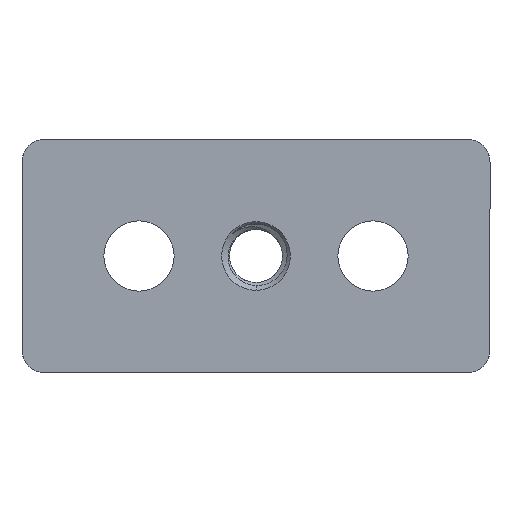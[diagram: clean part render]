
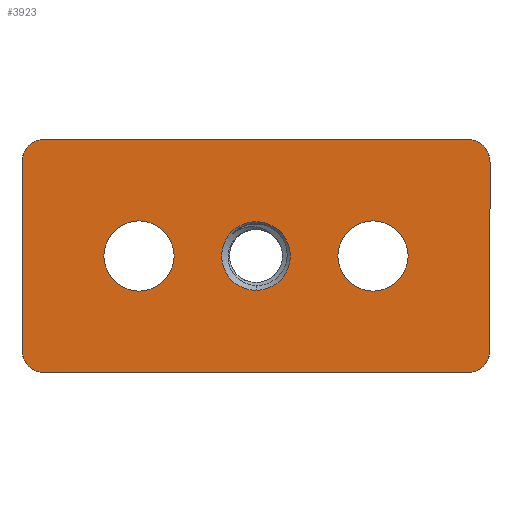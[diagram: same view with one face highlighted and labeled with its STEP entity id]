
A CAD part, front view. The second image highlights one B-rep face of the part: STEP entity #3923.
In plain terms, the highlighted planar face has unit normal (0, -1, 0).
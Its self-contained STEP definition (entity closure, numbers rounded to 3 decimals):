
#84 = VERTEX_POINT ( 'NONE', #3325 ) ;
#217 = AXIS2_PLACEMENT_3D ( 'NONE', #4172, #4520, #4469 ) ;
#224 = DIRECTION ( 'NONE',  ( 0., 0., -1. ) ) ;
#236 = VERTEX_POINT ( 'NONE', #2530 ) ;
#293 = CARTESIAN_POINT ( 'NONE',  ( -27., 0., -15. ) ) ;
#295 = CARTESIAN_POINT ( 'NONE',  ( 30., 0., -12. ) ) ;
#359 = VERTEX_POINT ( 'NONE', #295 ) ;
#381 = VECTOR ( 'NONE', #3386, 1000. ) ;
#434 = CARTESIAN_POINT ( 'NONE',  ( 0., 0., 0. ) ) ;
#437 = ORIENTED_EDGE ( 'NONE', *, *, #1896, .F. ) ;
#494 = CARTESIAN_POINT ( 'NONE',  ( -27., 0., 12. ) ) ;
#618 = CARTESIAN_POINT ( 'NONE',  ( 0., 0., 0. ) ) ;
#691 = AXIS2_PLACEMENT_3D ( 'NONE', #1824, #2942, #2843 ) ;
#700 = VERTEX_POINT ( 'NONE', #2008 ) ;
#810 = CARTESIAN_POINT ( 'NONE',  ( -27., 0., 15. ) ) ;
#815 = AXIS2_PLACEMENT_3D ( 'NONE', #2672, #2940, #4444 ) ;
#886 = CARTESIAN_POINT ( 'NONE',  ( -15., 0., -4.5 ) ) ;
#957 = CARTESIAN_POINT ( 'NONE',  ( 15., 0., 0. ) ) ;
#959 = EDGE_CURVE ( 'NONE', #3672, #4757, #3704, .T. ) ;
#960 = CARTESIAN_POINT ( 'NONE',  ( -30., 0., -12. ) ) ;
#1003 = CIRCLE ( 'NONE', #3496, 4.4 ) ;
#1064 = VERTEX_POINT ( 'NONE', #4552 ) ;
#1116 = EDGE_CURVE ( 'NONE', #4428, #700, #1003, .T. ) ;
#1175 = ORIENTED_EDGE ( 'NONE', *, *, #1931, .T. ) ;
#1206 = DIRECTION ( 'NONE',  ( 0., 1., 0. ) ) ;
#1298 = CARTESIAN_POINT ( 'NONE',  ( 27., 0., -15. ) ) ;
#1330 = CIRCLE ( 'NONE', #4148, 4.5 ) ;
#1403 = DIRECTION ( 'NONE',  ( 0., 1., 0. ) ) ;
#1432 = ORIENTED_EDGE ( 'NONE', *, *, #4173, .T. ) ;
#1457 = CARTESIAN_POINT ( 'NONE',  ( -30., 0., -12. ) ) ;
#1526 = PLANE ( 'NONE',  #815 ) ;
#1582 = DIRECTION ( 'NONE',  ( 0., 1., 0. ) ) ;
#1598 = CARTESIAN_POINT ( 'NONE',  ( 15., 0., 0. ) ) ;
#1687 = EDGE_CURVE ( 'NONE', #359, #2892, #2873, .T. ) ;
#1727 = ORIENTED_EDGE ( 'NONE', *, *, #1687, .F. ) ;
#1734 = ORIENTED_EDGE ( 'NONE', *, *, #4803, .T. ) ;
#1747 = EDGE_CURVE ( 'NONE', #1928, #84, #3034, .T. ) ;
#1824 = CARTESIAN_POINT ( 'NONE',  ( 27., 0., -12. ) ) ;
#1847 = DIRECTION ( 'NONE',  ( 0., 0., 1. ) ) ;
#1896 = EDGE_CURVE ( 'NONE', #2279, #3672, #2959, .T. ) ;
#1900 = CIRCLE ( 'NONE', #4478, 4.5 ) ;
#1928 = VERTEX_POINT ( 'NONE', #2626 ) ;
#1931 = EDGE_CURVE ( 'NONE', #1064, #4159, #3187, .T. ) ;
#2008 = CARTESIAN_POINT ( 'NONE',  ( 0., 0., -4.4 ) ) ;
#2092 = LINE ( 'NONE', #3576, #3070 ) ;
#2101 = CIRCLE ( 'NONE', #3968, 4.5 ) ;
#2106 = EDGE_CURVE ( 'NONE', #4794, #236, #2101, .T. ) ;
#2211 = DIRECTION ( 'NONE',  ( -1., 0., 0. ) ) ;
#2279 = VERTEX_POINT ( 'NONE', #4017 ) ;
#2298 = CARTESIAN_POINT ( 'NONE',  ( 15., 0., 4.5 ) ) ;
#2302 = DIRECTION ( 'NONE',  ( 1., 0., 0. ) ) ;
#2334 = AXIS2_PLACEMENT_3D ( 'NONE', #4151, #1206, #1847 ) ;
#2388 = DIRECTION ( 'NONE',  ( 0., 1., 0. ) ) ;
#2440 = EDGE_LOOP ( 'NONE', ( #4305, #1432 ) ) ;
#2453 = EDGE_LOOP ( 'NONE', ( #1175, #1734 ) ) ;
#2464 = EDGE_CURVE ( 'NONE', #3310, #1928, #4117, .T. ) ;
#2477 = DIRECTION ( 'NONE',  ( 0., 0., -1. ) ) ;
#2530 = CARTESIAN_POINT ( 'NONE',  ( 15., 0., -4.5 ) ) ;
#2595 = VECTOR ( 'NONE', #2211, 1000. ) ;
#2598 = FACE_OUTER_BOUND ( 'NONE', #3190, .T. ) ;
#2626 = CARTESIAN_POINT ( 'NONE',  ( 27., 0., 15. ) ) ;
#2647 = AXIS2_PLACEMENT_3D ( 'NONE', #3356, #3037, #3014 ) ;
#2672 = CARTESIAN_POINT ( 'NONE',  ( 27., 0., -12. ) ) ;
#2693 = DIRECTION ( 'NONE',  ( 0., 0., -1. ) ) ;
#2843 = DIRECTION ( 'NONE',  ( 0., 0., -1. ) ) ;
#2871 = ORIENTED_EDGE ( 'NONE', *, *, #4471, .F. ) ;
#2873 = CIRCLE ( 'NONE', #691, 3. ) ;
#2892 = VERTEX_POINT ( 'NONE', #1298 ) ;
#2940 = DIRECTION ( 'NONE',  ( 0., -1., 0. ) ) ;
#2942 = DIRECTION ( 'NONE',  ( 0., 1., 0. ) ) ;
#2959 = CIRCLE ( 'NONE', #217, 3. ) ;
#2960 = LINE ( 'NONE', #293, #2595 ) ;
#2987 = AXIS2_PLACEMENT_3D ( 'NONE', #494, #4291, #3913 ) ;
#3014 = DIRECTION ( 'NONE',  ( 0., 0., 1. ) ) ;
#3034 = CIRCLE ( 'NONE', #2334, 3. ) ;
#3037 = DIRECTION ( 'NONE',  ( 0., 1., 0. ) ) ;
#3070 = VECTOR ( 'NONE', #2477, 1000. ) ;
#3103 = VECTOR ( 'NONE', #2302, 1000. ) ;
#3129 = DIRECTION ( 'NONE',  ( 0., 1., 0. ) ) ;
#3131 = DIRECTION ( 'NONE',  ( 0., 0., -1. ) ) ;
#3154 = DIRECTION ( 'NONE',  ( 0., 1., 0. ) ) ;
#3187 = CIRCLE ( 'NONE', #2647, 4.5 ) ;
#3190 = EDGE_LOOP ( 'NONE', ( #1727, #3396, #4828, #3483, #4719, #3557, #437, #2871 ) ) ;
#3310 = VERTEX_POINT ( 'NONE', #4125 ) ;
#3325 = CARTESIAN_POINT ( 'NONE',  ( 30., 0., 12. ) ) ;
#3356 = CARTESIAN_POINT ( 'NONE',  ( -15., 0., 0. ) ) ;
#3386 = DIRECTION ( 'NONE',  ( 0., 0., 1. ) ) ;
#3396 = ORIENTED_EDGE ( 'NONE', *, *, #3803, .F. ) ;
#3401 = FACE_BOUND ( 'NONE', #2440, .T. ) ;
#3438 = ORIENTED_EDGE ( 'NONE', *, *, #1116, .T. ) ;
#3463 = CARTESIAN_POINT ( 'NONE',  ( -30., 0., 12. ) ) ;
#3483 = ORIENTED_EDGE ( 'NONE', *, *, #2464, .F. ) ;
#3496 = AXIS2_PLACEMENT_3D ( 'NONE', #434, #1582, #3780 ) ;
#3513 = CARTESIAN_POINT ( 'NONE',  ( -15., 0., 0. ) ) ;
#3557 = ORIENTED_EDGE ( 'NONE', *, *, #959, .F. ) ;
#3570 = CARTESIAN_POINT ( 'NONE',  ( 0., 0., 4.4 ) ) ;
#3576 = CARTESIAN_POINT ( 'NONE',  ( 30., 0., -12. ) ) ;
#3621 = AXIS2_PLACEMENT_3D ( 'NONE', #618, #1403, #224 ) ;
#3672 = VERTEX_POINT ( 'NONE', #960 ) ;
#3681 = EDGE_CURVE ( 'NONE', #700, #4428, #4256, .T. ) ;
#3704 = LINE ( 'NONE', #1457, #381 ) ;
#3780 = DIRECTION ( 'NONE',  ( 0., 0., -1. ) ) ;
#3803 = EDGE_CURVE ( 'NONE', #84, #359, #2092, .T. ) ;
#3913 = DIRECTION ( 'NONE',  ( 0., 0., 1. ) ) ;
#3923 = ADVANCED_FACE ( 'NONE', ( #4170, #3401, #4149, #2598 ), #1526, .T. ) ;
#3968 = AXIS2_PLACEMENT_3D ( 'NONE', #957, #3154, #3131 ) ;
#3983 = DIRECTION ( 'NONE',  ( 0., 0., 1. ) ) ;
#4004 = CIRCLE ( 'NONE', #2987, 3. ) ;
#4017 = CARTESIAN_POINT ( 'NONE',  ( -27., 0., -15. ) ) ;
#4117 = LINE ( 'NONE', #810, #3103 ) ;
#4125 = CARTESIAN_POINT ( 'NONE',  ( -27., 0., 15. ) ) ;
#4148 = AXIS2_PLACEMENT_3D ( 'NONE', #3513, #2388, #3983 ) ;
#4149 = FACE_BOUND ( 'NONE', #2453, .T. ) ;
#4151 = CARTESIAN_POINT ( 'NONE',  ( 27., 0., 12. ) ) ;
#4159 = VERTEX_POINT ( 'NONE', #886 ) ;
#4164 = EDGE_LOOP ( 'NONE', ( #4799, #3438 ) ) ;
#4170 = FACE_BOUND ( 'NONE', #4164, .T. ) ;
#4172 = CARTESIAN_POINT ( 'NONE',  ( -27., 0., -12. ) ) ;
#4173 = EDGE_CURVE ( 'NONE', #236, #4794, #1900, .T. ) ;
#4256 = CIRCLE ( 'NONE', #3621, 4.4 ) ;
#4290 = EDGE_CURVE ( 'NONE', #4757, #3310, #4004, .T. ) ;
#4291 = DIRECTION ( 'NONE',  ( 0., 1., 0. ) ) ;
#4305 = ORIENTED_EDGE ( 'NONE', *, *, #2106, .T. ) ;
#4428 = VERTEX_POINT ( 'NONE', #3570 ) ;
#4444 = DIRECTION ( 'NONE',  ( 0., 0., -1. ) ) ;
#4469 = DIRECTION ( 'NONE',  ( 0., 0., 1. ) ) ;
#4471 = EDGE_CURVE ( 'NONE', #2892, #2279, #2960, .T. ) ;
#4478 = AXIS2_PLACEMENT_3D ( 'NONE', #1598, #3129, #2693 ) ;
#4520 = DIRECTION ( 'NONE',  ( 0., 1., 0. ) ) ;
#4552 = CARTESIAN_POINT ( 'NONE',  ( -15., 0., 4.5 ) ) ;
#4719 = ORIENTED_EDGE ( 'NONE', *, *, #4290, .F. ) ;
#4757 = VERTEX_POINT ( 'NONE', #3463 ) ;
#4794 = VERTEX_POINT ( 'NONE', #2298 ) ;
#4799 = ORIENTED_EDGE ( 'NONE', *, *, #3681, .T. ) ;
#4803 = EDGE_CURVE ( 'NONE', #4159, #1064, #1330, .T. ) ;
#4828 = ORIENTED_EDGE ( 'NONE', *, *, #1747, .F. ) ;
